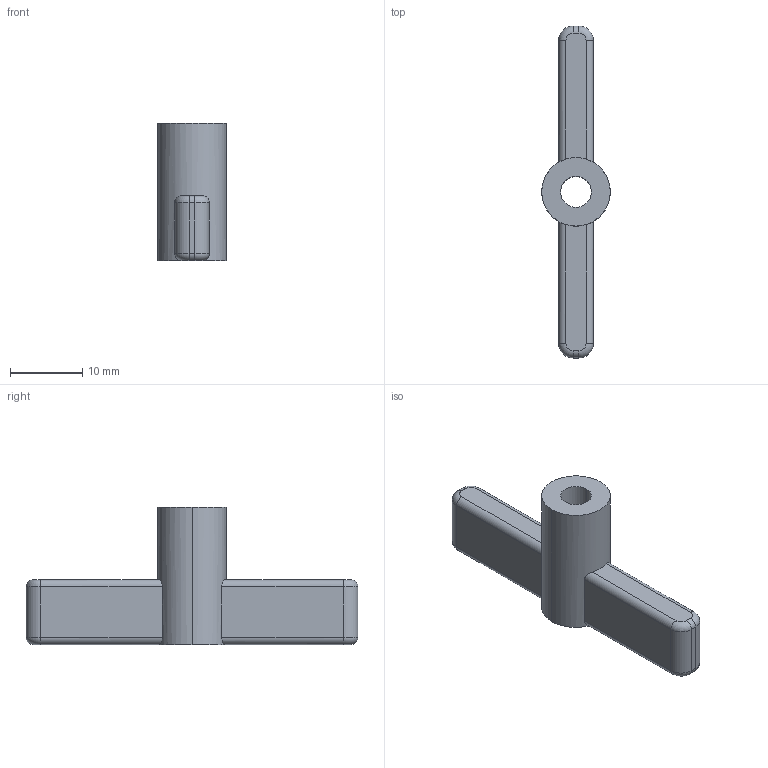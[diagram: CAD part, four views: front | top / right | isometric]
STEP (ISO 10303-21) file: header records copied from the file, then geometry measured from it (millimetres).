
FILE_DESCRIPTION (( 'STEP AP214' ), '1' );
FILE_NAME ('GZ30.14_V1弹簧旋钮.STEP', '2021-06-05T09:19:34', ( '微软中国' ), ( 'Microsoft' ), 'SwSTEP 2.0', 'SolidWorks 2017', '' );
FILE_SCHEMA (( 'AUTOMOTIVE_DESIGN' ));
Length unit declared in the file: millimetre
Products named in the file (1): GZ30.14_V1粟銅唅聽
Bounding box: 9.5 x 46 x 19 mm (x, y, z)
Volume: 2600.6 mm3; surface area: 1859.9 mm2
Topology: 1 solids, 1 shells, 38 faces, 92 edges, 56 vertices
Faces by surface type: cylinder 20, plane 10, torus 8
Entity records: 1214 total; most frequent: CARTESIAN_POINT 267, DIRECTION 206, ORIENTED_EDGE 184, EDGE_CURVE 92, AXIS2_PLACEMENT_3D 83, VERTEX_POINT 56, CIRCLE 44, EDGE_LOOP 40
